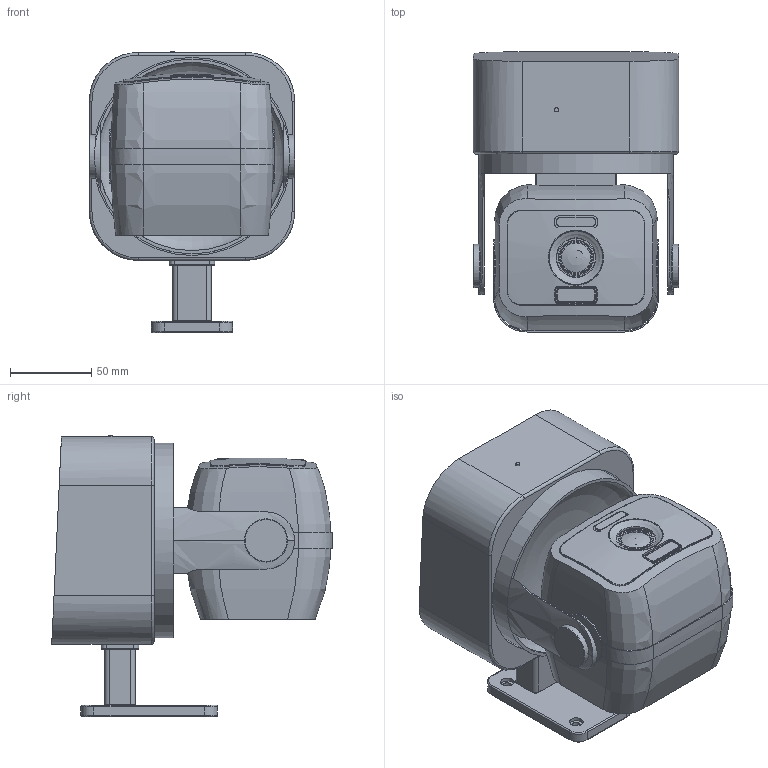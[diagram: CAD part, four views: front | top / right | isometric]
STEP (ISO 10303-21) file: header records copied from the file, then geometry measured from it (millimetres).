
FILE_DESCRIPTION(('Open CASCADE Model'),'2;1');
FILE_NAME('Open CASCADE Shape Model','2026-10-18T12:27:50',('Author'),( 'Open CASCADE'),'Open CASCADE STEP processor 8.0','Open CASCADE 8.0' ,'Unknown');
FILE_SCHEMA(('AUTOMOTIVE_DESIGN { 1 0 10303 214 1 1 1 1 }'));
Length unit declared in the file: millimetre
Products named in the file (35): Open CASCADE STEP translator 8.0 5; Open CASCADE STEP translator 8.0 6; Open CASCADE STEP translator 8.0 7; Open CASCADE STEP translator 8.0 8; Open CASCADE STEP translator 8.0 9; Open CASCADE STEP translator 8.0 10; Open CASCADE STEP translator 8.0 11; Open CASCADE STEP translator 8.0 12; Open CASCADE STEP translator 8.0 13; Open CASCADE STEP translator 8.0 14; Open CASCADE STEP translator 8.0 15; Open CASCADE STEP translator 8.0 16; Open CASCADE STEP translator 8.0 17; Open CASCADE STEP translator 8.0 18; Open CASCADE STEP translator 8.0 19; Open CASCADE STEP translator 8.0 20; Open CASCADE STEP translator 8.0 21; Open CASCADE STEP translator 8.0 22; Open CASCADE STEP translator 8.0 23; Open CASCADE STEP translator 8.0 24; Open CASCADE STEP translator 8.0 25; Open CASCADE STEP translator 8.0 26; Open CASCADE STEP translator 8.0 27; Open CASCADE STEP translator 8.0 28; Open CASCADE STEP translator 8.0 29; Open CASCADE STEP translator 8.0 30; Open CASCADE STEP translator 8.0 31; Open CASCADE STEP translator 8.0 32; Open CASCADE STEP translator 8.0 33; Open CASCADE STEP translator 8.0 34; Open CASCADE STEP translator 8.0 35; Open CASCADE STEP translator 8.0 36; Open CASCADE STEP translator 8.0 37; Open CASCADE STEP translator 8.0 38; Open CASCADE STEP translator 8.0 39
Bounding box: 126.4 x 172.8 x 173.2 mm (x, y, z)
Volume: 950171 mm3; surface area: 265944 mm2
Topology: 35 solids, 35 shells, 482 faces, 1065 edges, 659 vertices
Faces by surface type: cylinder 173, plane 158, torus 74, bspline 66, sphere 7, revolution 4
Full cylindrical faces by diameter (mm): 2.5 x1, 4.8 x4, 5.6 x1, 7 x1, 8.4 x4, 9.6 x1, 14 x1, 15.8 x1, 16 x1, 18 x1, 18.1 x1, 19.1 x1, 19.4 x1, 20 x1, 20.2 x1, 20.8 x1, 21.8 x1, 24.4 x1, 25 x2, 26.6 x2, 28.2 x2, 33 x3, 34 x2, 116 x2, 120 x1, 122 x1
Entity records: 43092 total; most frequent: CARTESIAN_POINT 21829, DIRECTION 3771, ORIENTED_EDGE 2128, PCURVE 2128, DEFINITIONAL_REPRESENTATION 2128, LINE 1934, VECTOR 1934, EDGE_CURVE 1064
